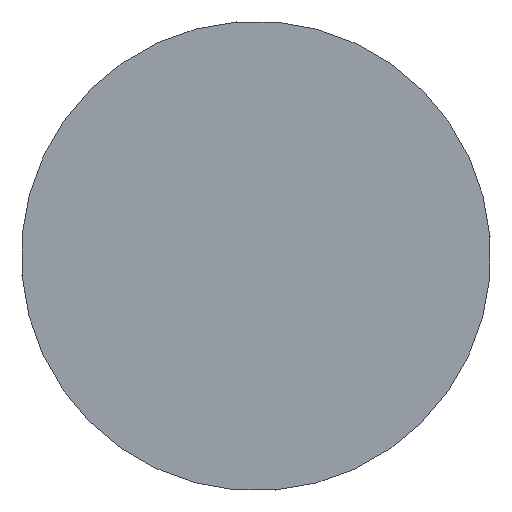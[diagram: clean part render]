
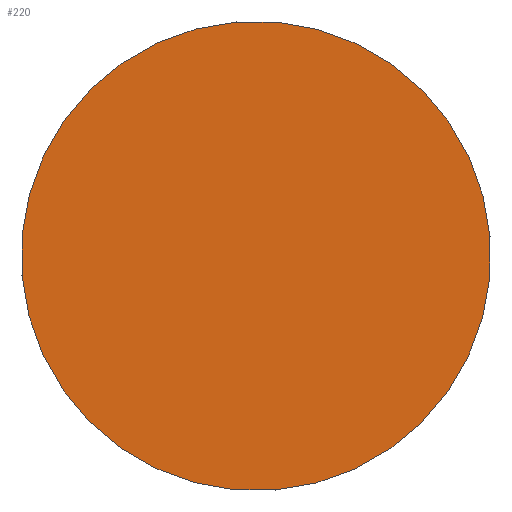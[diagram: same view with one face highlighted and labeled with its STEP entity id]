
A CAD part, left-side view. The second image highlights one B-rep face of the part: STEP entity #220.
In plain terms, the highlighted planar face has unit normal (-1, 0, 0).
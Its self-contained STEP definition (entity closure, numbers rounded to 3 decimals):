
#1 = VERTEX_POINT ( 'NONE', #20 ) ;
#15 = EDGE_CURVE ( 'NONE', #454, #1, #237, .T. ) ;
#20 = CARTESIAN_POINT ( 'NONE',  ( -70., 0., 3. ) ) ;
#21 = FACE_OUTER_BOUND ( 'NONE', #106, .T. ) ;
#81 = DIRECTION ( 'NONE',  ( -1., 0., 0. ) ) ;
#101 = ORIENTED_EDGE ( 'NONE', *, *, #15, .F. ) ;
#106 = EDGE_LOOP ( 'NONE', ( #101, #321 ) ) ;
#133 = CARTESIAN_POINT ( 'NONE',  ( -70., 0., 0. ) ) ;
#166 = DIRECTION ( 'NONE',  ( 1., 0., 0. ) ) ;
#171 = DIRECTION ( 'NONE',  ( 1., 0., 0. ) ) ;
#188 = EDGE_CURVE ( 'NONE', #1, #454, #418, .T. ) ;
#207 = PLANE ( 'NONE',  #423 ) ;
#215 = AXIS2_PLACEMENT_3D ( 'NONE', #133, #171, #309 ) ;
#218 = CARTESIAN_POINT ( 'NONE',  ( -70., 0., -3. ) ) ;
#220 = ADVANCED_FACE ( 'NONE', ( #21 ), #207, .T. ) ;
#237 = CIRCLE ( 'NONE', #363, 3. ) ;
#261 = CARTESIAN_POINT ( 'NONE',  ( -70., 3., 0. ) ) ;
#264 = CARTESIAN_POINT ( 'NONE',  ( -70., 0., 0. ) ) ;
#265 = DIRECTION ( 'NONE',  ( 0., 0., 1. ) ) ;
#309 = DIRECTION ( 'NONE',  ( 0., 0., -1. ) ) ;
#321 = ORIENTED_EDGE ( 'NONE', *, *, #188, .F. ) ;
#363 = AXIS2_PLACEMENT_3D ( 'NONE', #264, #166, #394 ) ;
#394 = DIRECTION ( 'NONE',  ( 0., 0., -1. ) ) ;
#418 = CIRCLE ( 'NONE', #215, 3. ) ;
#423 = AXIS2_PLACEMENT_3D ( 'NONE', #261, #81, #265 ) ;
#454 = VERTEX_POINT ( 'NONE', #218 ) ;
